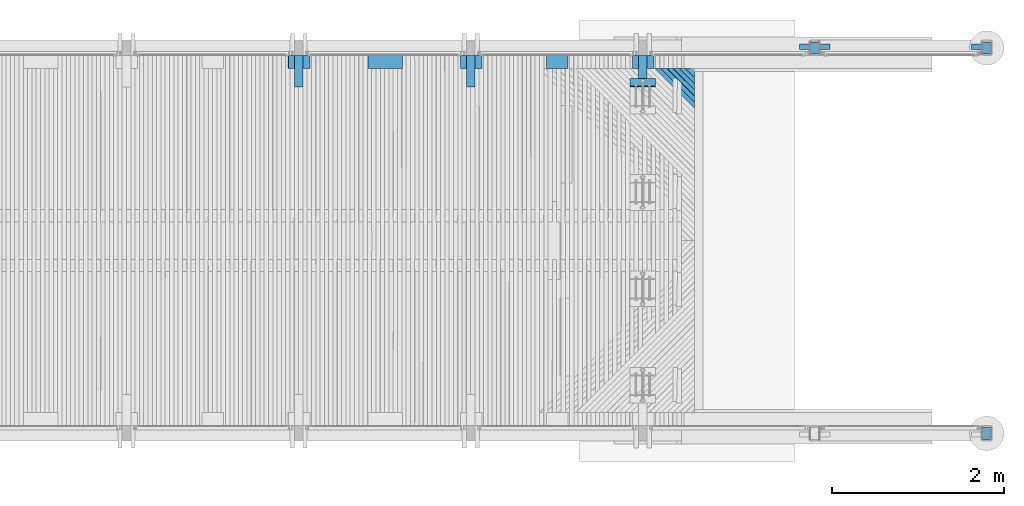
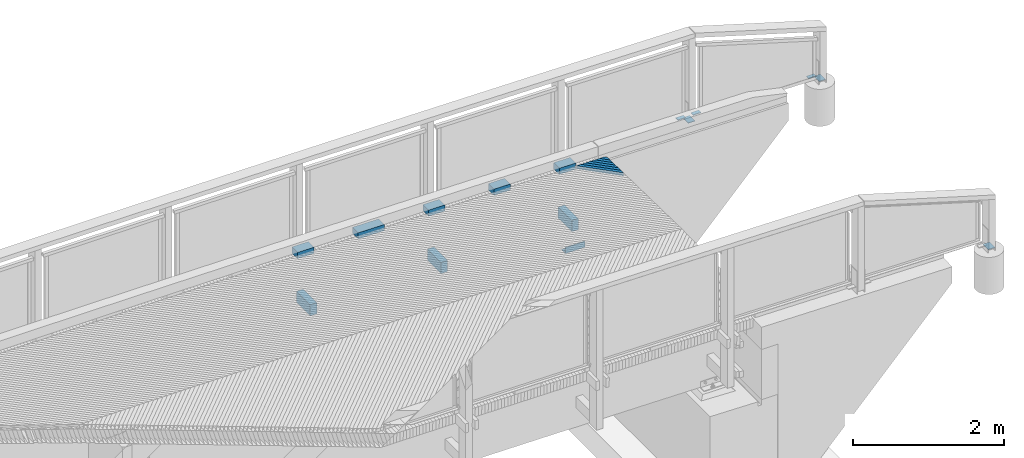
# One storey, part 55 of 65: 21 beams.
"""IFC2X3 building model written with IfcOpenShell, lengths in millimetres."""

from ifc_helpers import new_model, si_unit, frame, origin_with_axes, place, context, subcontext, project, spatial, faceted_brep, material, type_object, element, save


model = new_model("IFC2X3")

# Units and contexts
model_context = context("Model", 3, precision=1e-05, world=origin_with_axes())
body_context = subcontext(model_context, "Body", "Model", "MODEL_VIEW")
ifc_project = project(units=[si_unit("LENGTHUNIT", "METRE", prefix="MILLI"), si_unit("AREAUNIT", "SQUARE_METRE"), si_unit("VOLUMEUNIT", "CUBIC_METRE"), si_unit("MASSUNIT", "GRAM", prefix="KILO"), si_unit("TIMEUNIT", "SECOND"), si_unit("PLANEANGLEUNIT", "RADIAN"), si_unit("SOLIDANGLEUNIT", "STERADIAN"), si_unit("THERMODYNAMICTEMPERATUREUNIT", "DEGREE_CELSIUS"), si_unit("LUMINOUSINTENSITYUNIT", "LUMEN")], contexts=[model_context])

# Site, building, storey
site_placement = place(None, origin_with_axes())
site = spatial("IfcSite", under=ifc_project, at=site_placement, Name="Undefined", CompositionType="ELEMENT")
building_placement = place(site_placement, origin_with_axes())
building = spatial("IfcBuilding", under=site, at=building_placement, Name="Undefined", CompositionType="ELEMENT")
storey_placement = place(building_placement, origin_with_axes())
storey = spatial("IfcBuildingStorey", under=building, at=storey_placement, Name="Undefined", CompositionType="ELEMENT", Elevation=0.0)

# Beams
ifc_material_1 = material(Name="STEEL/AISI316")
beam_type_1 = type_object("IfcBeamType", Name="PL60*10", PredefinedType="NOTDEFINED")
for number, where, z_axis, x_axis in (
    (1, (19940.0034960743, 24620.0000002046, 3147.80999999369), (0.000116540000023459, -0.999999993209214, 0.0), (-0.999999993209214, -0.000116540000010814, 0.0)),
    (2, (18059.9965039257, 24620.0000002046, 3175.9199999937), (-0.000116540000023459, -0.999999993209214, 0.0), (0.999999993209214, -0.000116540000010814, 0.0)),
    (3, (17940.0034960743, 24620.0000002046, 3175.91999999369), (0.000116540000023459, -0.999999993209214, 0.0), (-0.999999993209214, -0.000116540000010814, 0.0)),
):
    element("IfcBeam", number, at=place(storey_placement, frame(where, z_axis=z_axis, x_axis=x_axis)), inside=storey, type_object=beam_type_1, material=ifc_material_1, Name="KAIDEPYLVÄS", ObjectType="PL60*10", context=body_context, shape_type="Brep", body=[
        faceted_brep([(0.0, 5.0, -30.0), (0.0, 5.0, 30.0), (115.000000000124, 5.0, 30.0), (115.00000000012, 5.0, -30.0), (0.0, -5.0, 30.0), (115.000000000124, -5.0, 30.0), (0.0, -5.0, -30.0), (115.00000000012, -5.0, -30.0)], [[[0, 1, 2, 3]], [[1, 4, 5, 2]], [[4, 6, 7, 5]], [[6, 0, 3, 7]], [[5, 7, 3, 2]], [[6, 4, 1, 0]]]),
    ])
beam_type_2 = type_object("IfcBeamType", Name="PL100*10", PredefinedType="NOTDEFINED")
for number, where, z_axis, x_axis in (
    (4, (19999.9999998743, 20055.02, 3089.56000000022), (1.0, 0.0, 0.0), (0.0, 1.0, 0.0)),
    (5, (19999.9999998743, 24674.9800000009, 3089.56000000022), (1.0, 0.0, 0.0), (0.0, -1.0, 0.0)),
    (6, (17999.9999998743, 24674.9800000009, 3117.67000000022), (1.0, 0.0, 0.0), (0.0, -1.0, 0.0)),
):
    element("IfcBeam", number, at=place(storey_placement, frame(where, z_axis=z_axis, x_axis=x_axis)), inside=storey, type_object=beam_type_2, material=ifc_material_1, Name="KAIDEPYLVÄS", ObjectType="PL100*10", context=body_context, shape_type="Brep", body=[
        faceted_brep([(0.0, 5.0, -50.0), (0.0, 5.0, 50.0), (140.0, 5.0, 50.0), (140.0, 5.0, -50.0), (0.0, -5.0, 50.0), (140.0, -5.0, 50.0), (0.0, -5.0, -50.0), (140.0, -5.0, -50.0)], [[[0, 1, 2, 3]], [[1, 4, 5, 2]], [[4, 6, 7, 5]], [[6, 0, 3, 7]], [[5, 7, 3, 2]], [[6, 4, 1, 0]]]),
    ])
ifc_material_2 = material(Name="TIMBER/Timber_Undefined")
beam_type_3 = type_object("IfcBeamType", Name="150*100", PredefinedType="NOTDEFINED")
beam_1_placement = place(storey_placement, frame((12805.9377995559, 24439.9999999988, 3199.40960826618), z_axis=(0.0, -1.0, 0.0), x_axis=(0.999944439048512, 0.0, -0.0105412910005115)))
element("IfcBeam", 7, at=beam_1_placement, inside=storey, type_object=beam_type_3, material=ifc_material_2, Name="TÖRMÄYSJOHDE", ObjectType="150*100", context=body_context, shape_type="Brep", body=[
    faceted_brep([(-3.63797880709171e-12, 50.0, -75.0), (-3.63797880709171e-12, 50.0, 75.0), (399.996161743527, 49.9999999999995, 75.0), (399.996161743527, 49.9999999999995, -75.0), (0.0, -49.9999999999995, 75.0), (399.996161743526, -50.0000000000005, 75.0), (0.0, -49.9999999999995, -75.0), (399.996161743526, -50.0000000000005, -75.0)], [[[0, 1, 2, 3]], [[1, 4, 5, 2]], [[4, 6, 7, 5]], [[6, 0, 3, 7]], [[5, 7, 3, 2]], [[6, 4, 1, 0]]]),
])
for number, where, z_axis, x_axis in (
    (8, (15881.7966501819, 24439.9999999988, 3166.35655532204), (0.0, -1.0, 0.0), (0.999929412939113, 0.0, -0.0118814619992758)),
    (9, (14881.4642555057, 24439.9999999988, 3178.62153167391), (0.0, -1.0, 0.0), (0.999947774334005, 0.0, -0.0102200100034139)),
    (10, (13881.1128627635, 24439.9999999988, 3189.22438612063), (0.0, -1.0, 0.0), (0.99996337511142, 0.0, -0.00855853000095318)),
    (11, (11880.3641300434, 24439.9999999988, 3205.44361680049), (0.0, -1.0, 0.0), (0.999986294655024, 0.0, -0.00523550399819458)),
):
    element("IfcBeam", number, at=place(storey_placement, frame(where, z_axis=z_axis, x_axis=x_axis)), inside=storey, type_object=beam_type_3, material=ifc_material_2, Name="TÖRMÄYSJOHDE", ObjectType="150*100", context=body_context, shape_type="Brep", body=[
        faceted_brep([(-3.63797880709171e-12, 50.0, -75.0), (-3.63797880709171e-12, 50.0, 75.0), (250.000589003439, 50.0000000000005, 75.0), (250.000589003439, 50.0000000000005, -75.0), (0.0, -49.9999999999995, 75.0), (250.000589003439, -50.0, 75.0), (0.0, -49.9999999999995, -75.0), (250.000589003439, -50.0, -75.0)], [[[0, 1, 2, 3]], [[1, 4, 5, 2]], [[4, 6, 7, 5]], [[6, 0, 3, 7]], [[5, 7, 3, 2]], [[6, 4, 1, 0]]]),
    ])
beam_type_4 = type_object("IfcBeamType", Name="180*100", PredefinedType="NOTDEFINED")
for number, where, z_axis, x_axis in (
    (12, (16000.0000678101, 24514.9879080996, 2385.26004297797), (0.0, 0.0, 1.0), (0.0, -1.0, 0.0)),
    (13, (14000.0000678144, 24514.9879080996, 2408.46176690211), (0.0, 0.0, 1.0), (0.0, -1.0, 0.0)),
    (14, (12000.0000678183, 24514.9879080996, 2425.03388065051), (0.0, 0.0, 1.0), (0.0, -1.0, 0.0)),
):
    element("IfcBeam", number, at=place(storey_placement, frame(where, z_axis=z_axis, x_axis=x_axis)), inside=storey, type_object=beam_type_4, material=ifc_material_2, Name="KAIDEPYLVÄS", ObjectType="180*100", context=body_context, shape_type="Brep", body=[
        faceted_brep([(0.0, 50.0, -90.0), (0.0, 50.0, 90.0), (362.490000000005, 50.0, 90.0), (362.490000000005, 50.0, -90.0), (0.0, -50.0, 90.0), (362.490000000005, -50.0, 90.0), (0.0, -50.0, -90.0), (362.490000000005, -50.0, -90.0)], [[[0, 1, 2, 3]], [[1, 4, 5, 2]], [[4, 6, 7, 5]], [[6, 0, 3, 7]], [[5, 7, 3, 2]], [[6, 4, 1, 0]]]),
    ])
beam_type_5 = type_object("IfcBeamType", Name="50*50", PredefinedType="NOTDEFINED")
beam_2_placement = place(storey_placement, frame((18531.7317784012, 22365.4998996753, 3144.0077743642), z_axis=(0.706781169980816, 0.706981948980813, -0.0252369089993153), x_axis=(-0.707258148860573, 0.706948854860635, -0.00303767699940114)))
element("IfcBeam", 15, at=beam_2_placement, inside=storey, type_object=beam_type_5, material=ifc_material_2, Name="BEAM", ObjectType="50*50", context=body_context, shape_type="Brep", body=[
    faceted_brep([(2804.34067830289, -25.0, 25.0000000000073), (2854.34301907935, -24.9999999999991, -25.0000000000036), (2852.92877373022, 25.0000000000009, -25.0), (2802.92643296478, 25.0, 25.0), (2756.83447595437, 24.9999999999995, 25.0000000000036), (2755.72500686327, -25.0, 25.0), (2705.75872714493, -25.0, -25.0), (2706.86819623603, 25.0000000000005, -25.0)], [[[0, 1, 2, 3]], [[0, 3, 4, 5]], [[1, 0, 5, 6]], [[2, 1, 6, 7]], [[3, 2, 7, 4]], [[6, 5, 4, 7]]]),
])
beam_3_placement = place(storey_placement, frame((18461.0182922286, 22365.4998996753, 3145.24068549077), z_axis=(0.706784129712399, 0.70698194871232, -0.0251538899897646), x_axis=(-0.70725778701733, 0.706948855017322, -0.00312075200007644)))
element("IfcBeam", 16, at=beam_3_placement, inside=storey, type_object=beam_type_5, material=ifc_material_2, Name="BEAM", ObjectType="50*50", context=body_context, shape_type="Brep", body=[
    faceted_brep([(2804.34067830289, -25.0, 25.0000000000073), (2854.34301907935, -24.9999999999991, -25.0000000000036), (2852.92877373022, 25.0000000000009, -25.0), (2802.92643296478, 25.0, 25.0), (2656.84922092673, 25.0000000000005, 25.0000000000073), (2655.74805253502, -24.9999999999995, 25.0000000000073), (2605.78153801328, -25.0, -24.9999999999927), (2606.88270640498, 25.0, -24.9999999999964)], [[[0, 1, 2, 3]], [[0, 3, 4, 5]], [[1, 0, 5, 6]], [[2, 1, 6, 7]], [[3, 2, 7, 4]], [[6, 5, 4, 7]]]),
])
beam_4_placement = place(storey_placement, frame((18390.3046617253, 22365.4998996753, 3146.4652905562), z_axis=(0.70678707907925, 0.706981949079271, -0.0250708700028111), x_axis=(-0.707257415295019, 0.70694885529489, -0.00320382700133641)))
element("IfcBeam", 17, at=beam_4_placement, inside=storey, type_object=beam_type_5, material=ifc_material_2, Name="BEAM", ObjectType="50*50", context=body_context, shape_type="Brep", body=[
    faceted_brep([(2804.34067830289, -25.0, 25.0000000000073), (2854.34301907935, -24.9999999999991, -25.0000000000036), (2852.92877373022, 25.0000000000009, -25.0), (2802.92643296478, 25.0, 25.0), (2556.86369484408, 25.0000000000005, 25.0), (2555.77082719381, -25.0, 25.0), (2505.80407790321, -24.9999999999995, -25.0), (2506.89694555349, 25.0000000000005, -24.9999999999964)], [[[0, 1, 2, 3]], [[0, 3, 4, 5]], [[1, 0, 5, 6]], [[2, 1, 6, 7]], [[3, 2, 7, 4]], [[6, 5, 4, 7]]]),
])
beam_5_placement = place(storey_placement, frame((18319.5908878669, 22365.4998996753, 3147.68158954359), z_axis=(0.706790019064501, 0.706981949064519, -0.0249878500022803), x_axis=(-0.707257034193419, 0.706948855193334, -0.00328690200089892)))
element("IfcBeam", 18, at=beam_5_placement, inside=storey, type_object=beam_type_5, material=ifc_material_2, Name="BEAM", ObjectType="50*50", context=body_context, shape_type="Brep", body=[
    faceted_brep([(2804.34067830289, -25.0, 25.0000000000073), (2854.34301907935, -24.9999999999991, -25.0000000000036), (2852.92877373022, 25.0000000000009, -25.0), (2802.92643296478, 25.0, 25.0), (2456.87789321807, 25.0, 24.9999999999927), (2455.79332630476, -25.0, 24.9999999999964), (2405.82634224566, -24.9999999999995, -25.0000000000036), (2406.91090915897, 24.9999999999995, -25.0000000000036)], [[[0, 1, 2, 3]], [[0, 3, 4, 5]], [[1, 0, 5, 6]], [[2, 1, 6, 7]], [[3, 2, 7, 4]], [[6, 5, 4, 7]]]),
])
beam_6_placement = place(storey_placement, frame((18248.8769716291, 22365.4998996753, 3148.88958243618), z_axis=(0.706792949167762, 0.706981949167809, -0.0249048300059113), x_axis=(-0.707256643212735, 0.706948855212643, -0.00336997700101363)))
element("IfcBeam", 19, at=beam_6_placement, inside=storey, type_object=beam_type_5, material=ifc_material_2, Name="BEAM", ObjectType="50*50", context=body_context, shape_type="Brep", body=[
    faceted_brep([(2804.34067830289, -25.0, 25.0000000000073), (2854.34301907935, -24.9999999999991, -25.0000000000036), (2852.92877373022, 25.0000000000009, -25.0), (2802.92643296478, 25.0, 25.0), (2356.89181509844, 25.0000000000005, 25.0000000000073), (2355.81554891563, -24.9999999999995, 25.0000000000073), (2305.84833008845, -25.0, -24.9999999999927), (2306.92459627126, 25.0, -25.0)], [[[0, 1, 2, 3]], [[0, 3, 4, 5]], [[1, 0, 5, 6]], [[2, 1, 6, 7]], [[3, 2, 7, 4]], [[6, 5, 4, 7]]]),
])
beam_7_placement = place(storey_placement, frame((18178.1629139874, 22365.4998996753, 3150.08926921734), z_axis=(0.706795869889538, 0.706981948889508, -0.0248218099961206), x_axis=(-0.707256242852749, 0.706948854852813, -0.00345305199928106)))
element("IfcBeam", 20, at=beam_7_placement, inside=storey, type_object=beam_type_5, material=ifc_material_2, Name="BEAM", ObjectType="50*50", context=body_context, shape_type="Brep", body=[
    faceted_brep([(2804.34067830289, -25.0, 25.0000000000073), (2854.34301907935, -24.9999999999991, -25.0000000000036), (2852.92877373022, 25.0000000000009, -25.0), (2802.92643296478, 25.0, 25.0), (2256.90545609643, 25.0000000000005, 25.0), (2255.83749064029, -24.9999999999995, 24.9999999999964), (2205.87003704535, -25.0000000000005, -25.0), (2206.93800250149, 25.0, -25.0000000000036)], [[[0, 1, 2, 3]], [[0, 3, 4, 5]], [[1, 0, 5, 6]], [[2, 1, 6, 7]], [[3, 2, 7, 4]], [[6, 5, 4, 7]]]),
])
ifc_material_3 = material(Name="STEEL/S235JR")
beam_type_6 = type_object("IfcBeamType", Name="L100*10", PredefinedType="NOTDEFINED")
beam_8_placement = place(storey_placement, frame((16150.0, 24202.5000000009, 2025.33), z_axis=(0.0, 0.0, 1.0), x_axis=(-1.0, 0.0, 0.0)))
element("IfcBeam", 21, at=beam_8_placement, inside=storey, type_object=beam_type_6, material=ifc_material_3, Name="BEAM", ObjectType="L100*10", context=body_context, shape_type="Brep", body=[
    faceted_brep([(0.0, 50.0, -50.0), (0.0, 50.0, 50.0), (300.0, 50.0, 50.0), (300.0, 50.0, -50.0), (0.0, 40.0, 50.0), (300.0, 40.0, 50.0), (0.0, 40.0, -40.0), (300.0, 40.0, -40.0), (0.0, -50.0, -40.0), (300.0, -50.0, -40.0), (0.0, -50.0, -50.0), (300.0, -50.0, -50.0)], [[[0, 1, 2, 3]], [[1, 4, 5, 2]], [[4, 6, 7, 5]], [[6, 8, 9, 7]], [[8, 10, 11, 9]], [[10, 0, 3, 11]], [[5, 7, 9, 11, 3, 2]], [[10, 8, 6, 4, 1, 0]]]),
])

save(model, "model.ifc")
